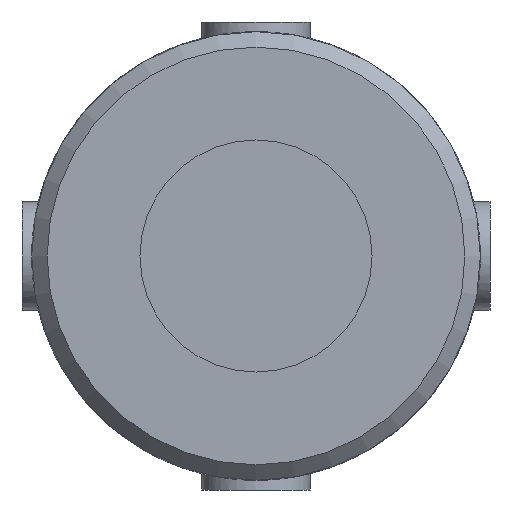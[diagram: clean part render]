
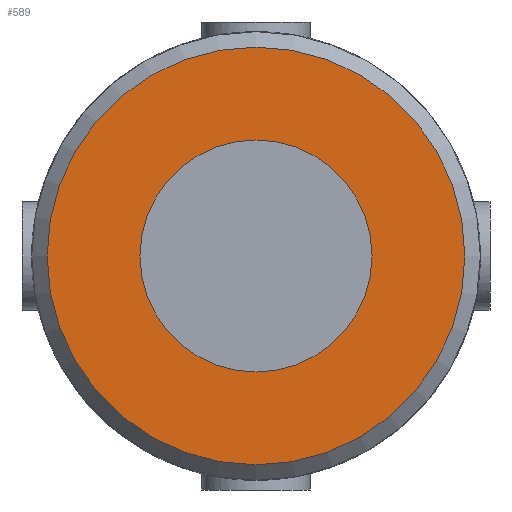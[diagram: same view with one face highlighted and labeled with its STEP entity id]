
A CAD part, left-side view. The second image highlights one B-rep face of the part: STEP entity #589.
In plain terms, the highlighted planar face has unit normal (-1, 0, 0) as drawn and (0, -1, 0) by its records, which use the part's own axes.
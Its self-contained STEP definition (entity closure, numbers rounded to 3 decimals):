
#121=PLANE('',#644);
#145=FACE_BOUND('',#221,.T.);
#168=FACE_OUTER_BOUND('',#220,.T.);
#220=EDGE_LOOP('',(#468));
#221=EDGE_LOOP('',(#469));
#257=CIRCLE('',#639,15.);
#259=CIRCLE('',#642,27.);
#292=VERTEX_POINT('',#908);
#294=VERTEX_POINT('',#913);
#354=EDGE_CURVE('',#292,#292,#257,.T.);
#356=EDGE_CURVE('',#294,#294,#259,.T.);
#468=ORIENTED_EDGE('',*,*,#356,.F.);
#469=ORIENTED_EDGE('',*,*,#354,.T.);
#589=ADVANCED_FACE('',(#168,#145),#121,.F.);
#639=AXIS2_PLACEMENT_3D('',#909,#749,#750);
#642=AXIS2_PLACEMENT_3D('',#914,#755,#756);
#644=AXIS2_PLACEMENT_3D('',#1114,#763,#764);
#749=DIRECTION('center_axis',(0.,1.,0.));
#750=DIRECTION('ref_axis',(-1.,0.,0.));
#755=DIRECTION('center_axis',(0.,1.,0.));
#756=DIRECTION('ref_axis',(1.,0.,0.));
#763=DIRECTION('center_axis',(0.,1.,0.));
#764=DIRECTION('ref_axis',(0.,0.,1.));
#908=CARTESIAN_POINT('',(15.,-75.5,0.));
#909=CARTESIAN_POINT('Origin',(0.,-75.5,0.));
#913=CARTESIAN_POINT('',(-27.,-75.5,0.));
#914=CARTESIAN_POINT('Origin',(0.,-75.5,0.));
#1114=CARTESIAN_POINT('Origin',(0.,-75.5,0.));
